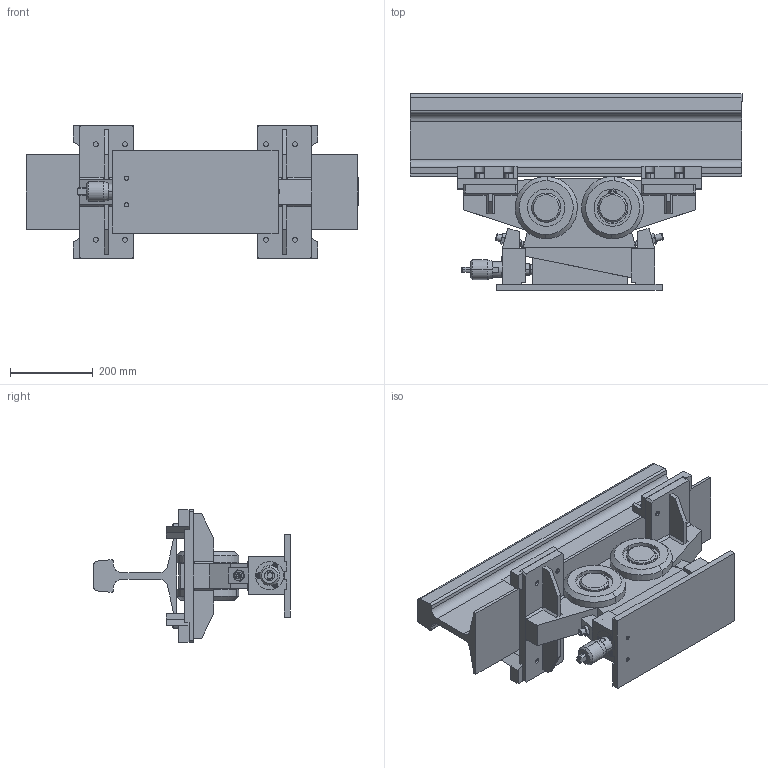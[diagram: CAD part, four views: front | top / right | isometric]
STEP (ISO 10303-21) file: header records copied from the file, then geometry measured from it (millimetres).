
FILE_DESCRIPTION((''),'2;1');
FILE_NAME('C:\Documents and Settings\LEGERET Philippe\Bureau\meuleuse de rails\solidworks\bloc de serrage.stp','2006-03-06T18:20:57',('LEGERET Philippe'),(''),'Autodesk Inventor 9','Autodesk Inventor 9','');
FILE_SCHEMA(('AUTOMOTIVE_DESIGN { 1 0 10303 214 1 1 1 1 }'));
Length unit declared in the file: millimetre
Products named in the file (29): bloc de serrage; guide de coin; vis de coin; FOURREAU; bouton vis de coin; plaque support de coin; coin inférieur; coin supérieur; guide de coin droit; support de rail; Welds_1; support galets; plaque support de rail; équerre; roulement_nu214eg15; roulement_nu214eg15_03; roulement_nu214eg15_02; roulement_nu214eg15_01; vis_de_reglage_nf_e_27-163_m16x2-70; ecrou___m16x2__ansi_b18_2_4_5m; sabot1; sabot2; axe galet; galet d'appui; anneau_elastique_pour_arbre_-_68_-_bs_3673; rail; iso_4762-m14x30-4_8; iso_10642-m6x20-10_9; din_912-m12x1_5x80-8_8
Assembly tree (51 placements, depth 3):
  bloc de serrage
    guide de coin
    vis de coin
    FOURREAU
    bouton vis de coin
    plaque support de coin
    coin inférieur
    coin supérieur
    guide de coin droit
    support de rail
      Welds_1
      support galets
      plaque support de rail  x2
      équerre  x4
    roulement_nu214eg15  x4
      roulement_nu214eg15_03
      roulement_nu214eg15_02
      roulement_nu214eg15_01
    vis_de_reglage_nf_e_27-163_m16x2-70  x2
    ecrou___m16x2__ansi_b18_2_4_5m  x2
    sabot1  x2
    sabot2  x2
    axe galet  x2
    anneau_elastique_pour_arbre_-_68_-_bs_3673  x3
    rail
    iso_4762-m14x30-4_8  x8
    iso_10642-m6x20-10_9  x3
    din_912-m12x1_5x80-8_8  x2
  galet d'appui
Bounding box: 800 x 474.31 x 320 mm (x, y, z)
Volume: 18923445.2 mm3; surface area: 2352520.8 mm2
Topology: 62 solids, 62 shells, 1305 faces, 3263 edges, 2120 vertices
Faces by surface type: plane 576, cylinder 357, cone 174, bspline 110, torus 84, sphere 4
Entity records: 21621 total; most frequent: CARTESIAN_POINT 5191, DIRECTION 3380, ORIENTED_EDGE 3202, EDGE_CURVE 1601, AXIS2_PLACEMENT_3D 1213, VERTEX_POINT 1045, VECTOR 954, LINE 954
